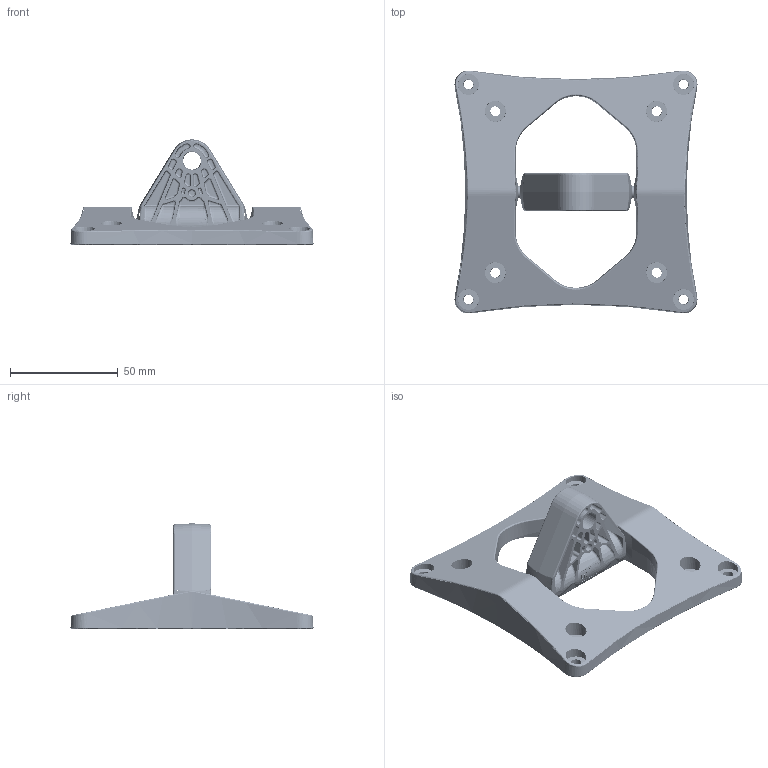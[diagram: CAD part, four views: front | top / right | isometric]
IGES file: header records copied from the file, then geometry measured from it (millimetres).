
Start section: SolidWorks IGES file using analytic representation for surfaces
Global section: file name: G:\RELEASED\82900\82917-XXX Standard Vesa Differential\Reell vTilt.IGS; native system: SolidWorks 2015; preprocessor: SolidWorks 2015; author: hmanderson; date: 150824.114210; units: millimetre
Bounding box: 113 x 113 x 48.95 mm (x, y, z)
Surface area: 56469.2 mm2 (no closed solid volume)
Topology: 0 solids, 0 shells, 4342 faces, 36605 edges, 36530 vertices
Faces by surface type: bspline 2527, revolution 1815
